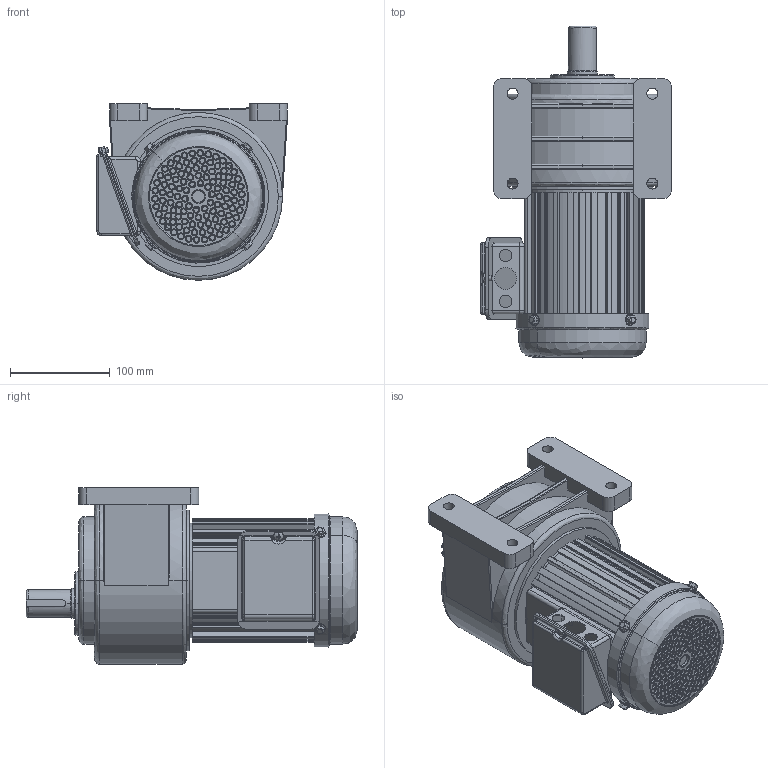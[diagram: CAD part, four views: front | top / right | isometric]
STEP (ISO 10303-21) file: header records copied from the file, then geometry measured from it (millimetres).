
FILE_DESCRIPTION (( 'STEP AP203' ), '1' );
FILE_NAME ('单相200W3#卧式.STEP', '2018-08-20T08:50:47', ( '微软中国' ), ( '微软用户' ), 'SwSTEP 2.0', 'SolidWorks 2012', '' );
FILE_SCHEMA (( 'CONFIG_CONTROL_DESIGN' ));
Products named in the file (11): 等眈200W3#拏宒; 蚾饜极3; Cross recessed pan head screws GB_GB_CROSS_SCREWS_TYPE1 M5X6-6  H type-N; 等眈100W諉盄碟裔; 等眈100W諉盄碟釱; 3#拏宒熬厒ん; Hex Flange Bolts-Heavy Grade B GB_GB_FASTENER_BOLT_HFBB M5X10-N; 100W瑞欶; 瑞欶盓殤; 100W綴裔; 200W儂褲
Assembly tree (16 placements, depth 3):
  等眈200W3#拏宒
    200W儂褲
    100W綴裔
    瑞欶盓殤  x4
    100W瑞欶
    Hex Flange Bolts-Heavy Grade B GB_GB_FASTENER_BOLT_HFBB M5X10-N  x4
    3#拏宒熬厒ん
    蚾饜极3
      等眈100W諉盄碟釱
      等眈100W諉盄碟裔
      Cross recessed pan head screws GB_GB_CROSS_SCREWS_TYPE1 M5X6-6  H type-N
Bounding box: 190.9 x 332.5 x 177 mm (x, y, z)
Volume: 3063384.4 mm3; surface area: 436249.6 mm2
Topology: 15 solids, 15 shells, 1509 faces, 3933 edges, 2448 vertices
Faces by surface type: bspline 639, cylinder 503, plane 305, torus 32, cone 24, sphere 6
Entity records: 55752 total; most frequent: CARTESIAN_POINT 21347, ORIENTED_EDGE 7298, DIRECTION 6753, EDGE_CURVE 3649, AXIS2_PLACEMENT_3D 2749, VERTEX_POINT 2286, CIRCLE 1958, EDGE_LOOP 1681
